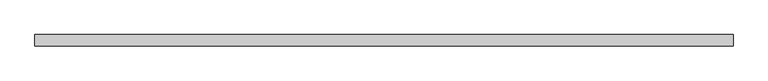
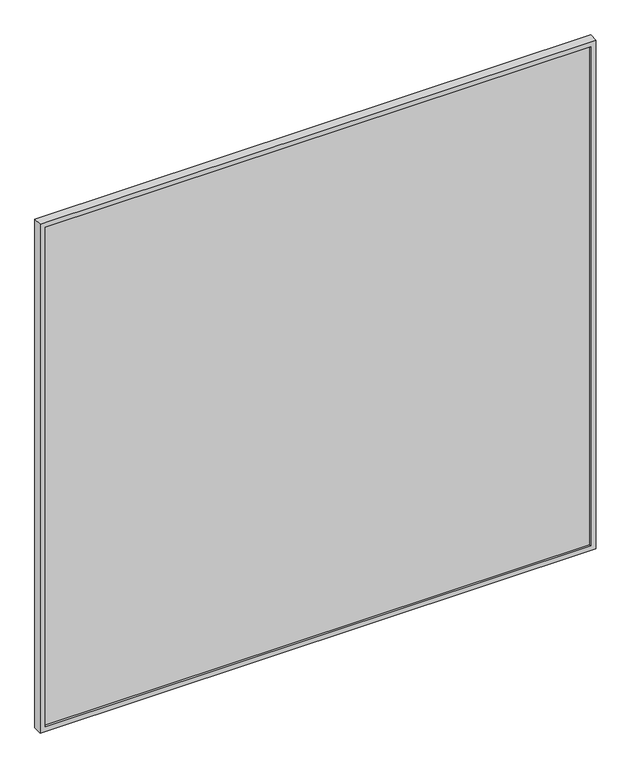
"""IFC4 building model written with IfcOpenShell, lengths in millimetres: plate geometry, ARQ-PA-IN-Vidrio Fijo Laminado  : ARQ-PA-IN-Vidrio Fijo Laminado ."""

from ifc_helpers import new_model, si_unit, frame, origin, place, context, project, spatial, polyline, outline, extrude, source, transform, mapped, element, save


def plate_f4d53fb9(model_context):
    return source(origin(), model_context, "Body", "SweptSolid", [
        extrude(outline(polyline([(1065.4599578, 10.0), (1065.4599578, -10.0), (-1065.4599578, -10.0), (-1065.4599578, 10.0), (1065.4599578, 10.0)])), frame((0.0, 0.0, 20.0), z_axis=(0.0, 0.0, 1.0), x_axis=(1.0, 0.0, 0.0)), (0.0, 0.0, 1.0), 2060.0),
        extrude(outline(polyline([(2100.0, -1085.4599578), (0.0, -1085.4599578), (0.0, 1085.4599578), (2100.0, 1085.4599578), (2100.0, -1085.4599578)]), holes=[polyline([(2080.0, -1065.4599578), (2080.0, 1065.4599578), (20.0, 1065.4599578), (20.0, -1065.4599578), (2080.0, -1065.4599578)])]), frame((0.0, -17.5, 0.0), z_axis=(0.0, 1.0, 0.0), x_axis=(0.0, 0.0, 1.0)), (0.0, 0.0, 1.0), 35.0),
    ])


if __name__ == "__main__":
    model = new_model("IFC4")
    model_context = context("Model", 3, world=origin())
    ifc_project = project(units=[si_unit("LENGTHUNIT", "METRE", prefix="MILLI")], contexts=[model_context])
    site = spatial("IfcSite", under=ifc_project)
    building = spatial("IfcBuilding", under=site)
    placement = place(None, origin())
    plate_shape = plate_f4d53fb9(model_context)
    element("IfcPlate", 1, ObjectType="ARQ-PA-IN-Vidrio Fijo Laminado  : ARQ-PA-IN-Vidrio Fijo Laminado ", at=placement, inside=building, context=model_context, shape_type="MappedRepresentation", body=[
        mapped(plate_shape, transform((0.0, 0.0, 0.0), x_axis=(1.0, 0.0, 0.0), y_axis=(0.0, 1.0, 0.0), z_axis=(0.0, 0.0, 1.0))),
    ])
    save(model, "model.ifc")
